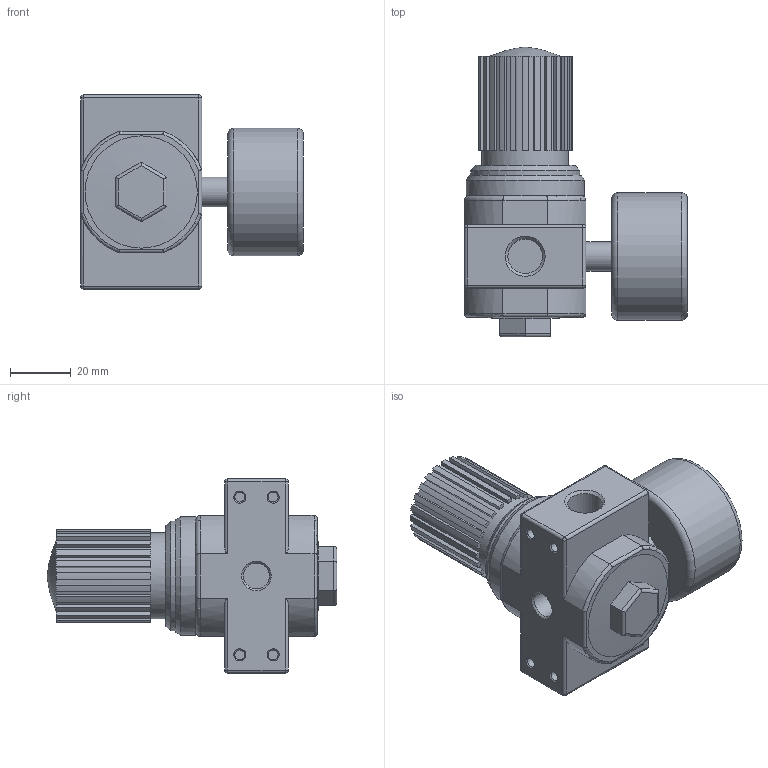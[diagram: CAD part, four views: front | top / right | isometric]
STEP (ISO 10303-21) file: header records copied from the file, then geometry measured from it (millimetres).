
FILE_DESCRIPTION(/* description */ ('STEP AP214'),/* implementation_level */ '2;1');
FILE_NAME(/* name */ '90-RC-14-xx-02.stp',/* time_stamp */ '2026-01-16T07:51:31+01:00',/* author */ ('Tschernatsch'),/* organization */ ('CADENAS'),/* preprocessor_version */ 'ST-DEVELOPER v20',/* originating_system */ 'Autodesk Inventor 2024',/* authorisation */ ' ');
FILE_SCHEMA (('AUTOMOTIVE_DESIGN { 1 0 10303 214 3 1 1 }'));
Length unit declared in the file: millimetre
Products named in the file (1): LR-G1/4-MINI
Bounding box: 73.5 x 95.5 x 64 mm (x, y, z)
Volume: 149449.3 mm3; surface area: 25930.4 mm2
Topology: 1 solids, 2 shells, 218 faces, 552 edges, 342 vertices
Faces by surface type: plane 114, cylinder 75, torus 10, cone 10, sphere 8, bspline 1
Full cylindrical faces by diameter (mm): 3.242 x4, 8.566 x2, 9.728 x1, 11.445 x2, 28.5 x1, 36 x1, 39 x1, 42 x1
Entity records: 6769 total; most frequent: CARTESIAN_POINT 1422, DIRECTION 1153, ORIENTED_EDGE 1086, EDGE_CURVE 543, AXIS2_PLACEMENT_3D 422, VERTEX_POINT 342, LINE 309, VECTOR 309
